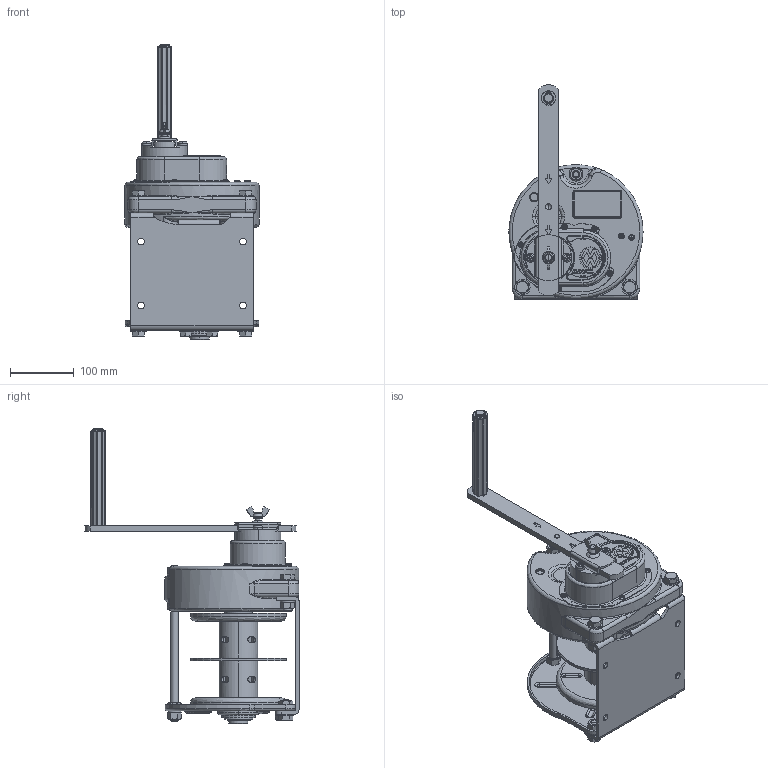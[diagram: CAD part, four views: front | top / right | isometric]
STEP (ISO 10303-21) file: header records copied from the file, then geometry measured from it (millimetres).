
FILE_DESCRIPTION( (''), '2;1');
FILE_NAME ('GM-3-NWD-SI.stp','2023-12-28T16:31:46',(''),(''),'spGate 19.8.2 (****-****-****-****)','','');
FILE_SCHEMA (('AUTOMOTIVE_DESIGN'));
Length unit declared in the file: millimetre
Products named in the file (3): Assembly; GM-3-NWD-SI-prt0; GM-3-NWD-SI-prt1
Assembly tree (2 placements, depth 2):
  Assembly
    GM-3-NWD-SI-prt0
    GM-3-NWD-SI-prt1
Bounding box: 209.96 x 335.43 x 463.5 mm (x, y, z)
Volume: 3745482.4 mm3; surface area: 623998.4 mm2
Topology: 2 solids, 2 shells, 2737 faces, 7114 edges, 4444 vertices
Faces by surface type: plane 1249, cylinder 841, bspline 577, sphere 70
Entity records: 151723 total; most frequent: CARTESIAN_POINT 30447, ORIENTED_EDGE 14112, DIRECTION 13347, COLOUR_RGB 9795, PRESENTATION_STYLE_ASSIGNMENT 9795, STYLED_ITEM 9795, EDGE_CURVE 7056, DRAUGHTING_PRE_DEFINED_CURVE_FONT 7056
